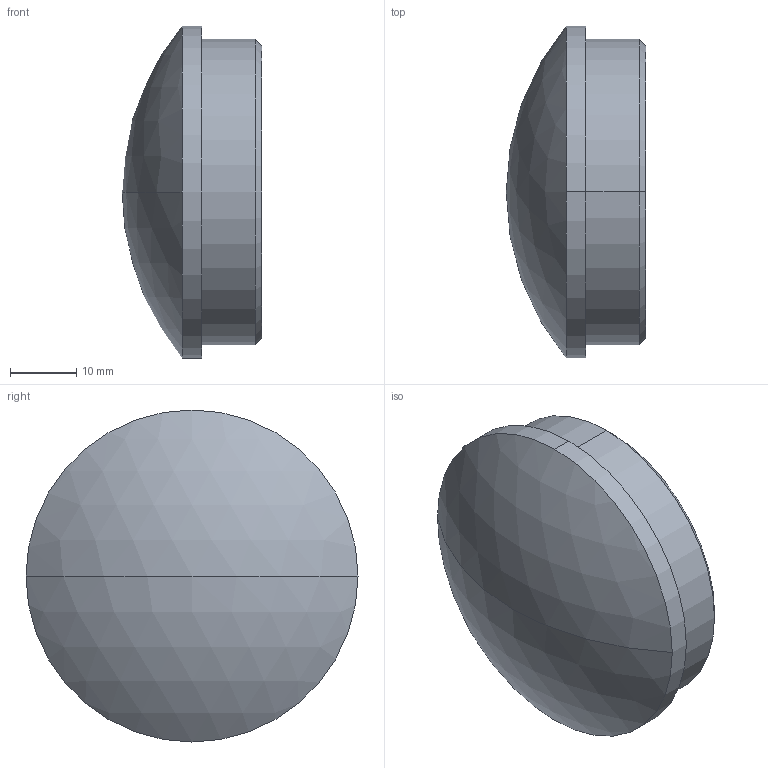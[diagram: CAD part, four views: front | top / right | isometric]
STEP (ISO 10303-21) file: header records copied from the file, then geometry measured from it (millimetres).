
FILE_DESCRIPTION (( 'STEP AP203' ), '1' );
FILE_NAME ('3D_GR1392_DN50x2_18380270.STEP', '2024-09-21T10:26:09', ( '' ), ( '' ), 'SwSTEP 2.0', 'SolidWorks 2024', '' );
FILE_SCHEMA (( 'CONFIG_CONTROL_DESIGN' ));
Length unit declared in the file: millimetre
Products named in the file (1): 3D_GR1392_DN50x2_18380270
Bounding box: 21 x 50 x 50 mm (x, y, z)
Volume: 29993.8 mm3; surface area: 5867.4 mm2
Topology: 1 solids, 1 shells, 10 faces, 20 edges, 13 vertices
Faces by surface type: cylinder 4, cone 2, sphere 2, plane 2
Entity records: 347 total; most frequent: DIRECTION 56, CARTESIAN_POINT 44, ORIENTED_EDGE 40, AXIS2_PLACEMENT_3D 25, EDGE_CURVE 20, CIRCLE 14, VERTEX_POINT 13, EDGE_LOOP 11
